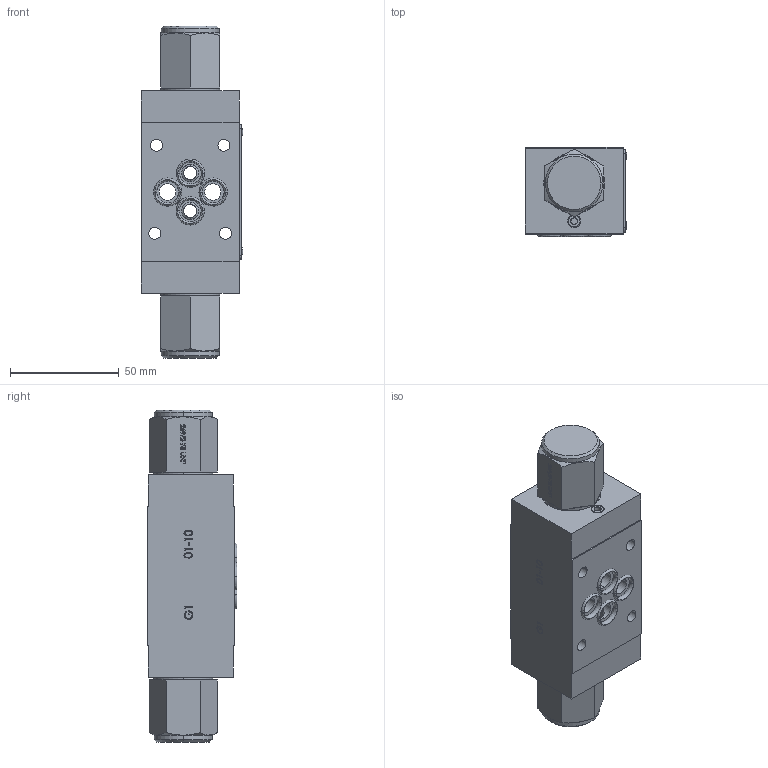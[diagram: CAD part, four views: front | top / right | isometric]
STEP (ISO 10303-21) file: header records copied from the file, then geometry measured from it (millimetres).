
FILE_DESCRIPTION (( 'STEP AP214' ), '1' );
FILE_NAME ('369-2-AB-03.STEP', '2019-12-03T10:56:04', ( '' ), ( '' ), 'SwSTEP 2.0', 'SolidWorks 2018', '' );
FILE_SCHEMA (( 'AUTOMOTIVE_DESIGN' ));
Length unit declared in the file: millimetre
Products named in the file (1): 369-2-AB-03
Bounding box: 46.66 x 41.1 x 152.6 mm (x, y, z)
Surface area: 34971.6 mm2 (no closed solid volume)
Topology: 0 solids, 41 shells, 799 faces, 3822 edges, 2953 vertices
Faces by surface type: plane 455, bspline 207, cylinder 99, cone 30, sphere 8
Entity records: 66000 total; most frequent: CARTESIAN_POINT 29988, ORIENTED_EDGE 5264, DIRECTION 4292, EDGE_CURVE 3820, VERTEX_POINT 2953, VECTOR 2514, LINE 2514, EDGE_LOOP 1021
